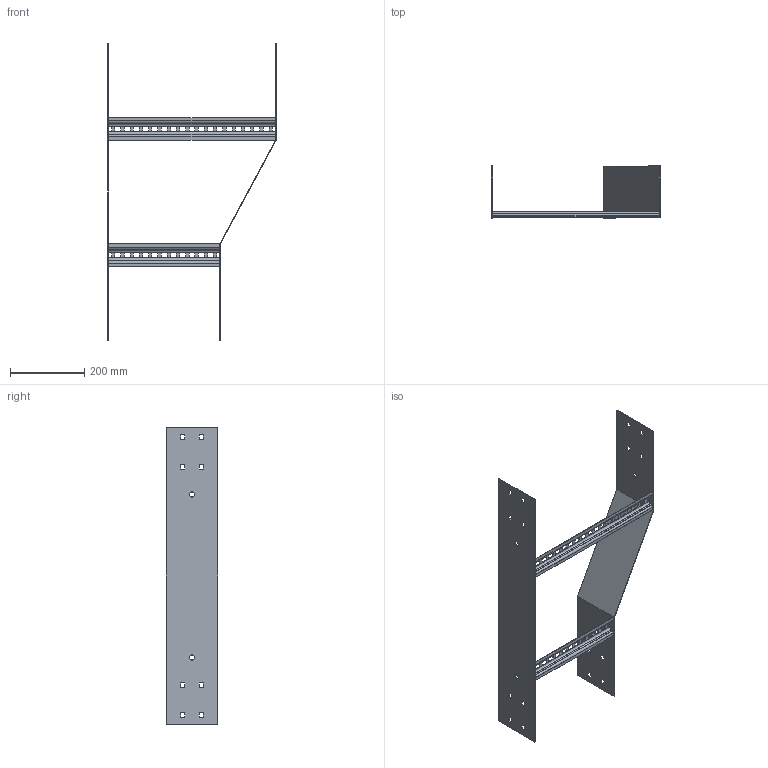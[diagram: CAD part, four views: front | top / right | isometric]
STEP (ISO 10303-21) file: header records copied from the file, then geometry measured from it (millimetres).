
FILE_DESCRIPTION (( 'STEP AP203' ), '1' );
FILE_NAME ('N20C LHR450300.STEP', '2024-08-28T21:52:41', ( '' ), ( '' ), 'SwSTEP 2.0', 'SolidWorks 2023', '' );
FILE_SCHEMA (( 'CONFIG_CONTROL_DESIGN' ));
Length unit declared in the file: millimetre
Products named in the file (5): N20C Tee Back Plate_800; N20C REDUCER_LHR300x450; Ladder Rung_Ladder Rung -  300mm; Ladder Rung_Ladder Rung -  450mm; N20C LHR450300
Assembly tree (4 placements, depth 2):
  N20C LHR450300
    N20C REDUCER_LHR300x450
    Ladder Rung_Ladder Rung -  300mm
    Ladder Rung_Ladder Rung -  450mm
    N20C Tee Back Plate_800
Bounding box: 454 x 140 x 800 mm (x, y, z)
Volume: 532735.6 mm3; surface area: 567878.6 mm2
Topology: 4 solids, 4 shells, 304 faces, 808 edges, 512 vertices
Faces by surface type: plane 276, cylinder 28
Entity records: 9903 total; most frequent: CARTESIAN_POINT 1631, ORIENTED_EDGE 1616, DIRECTION 1486, EDGE_CURVE 808, LINE 752, VECTOR 752, VERTEX_POINT 512, EDGE_LOOP 400
